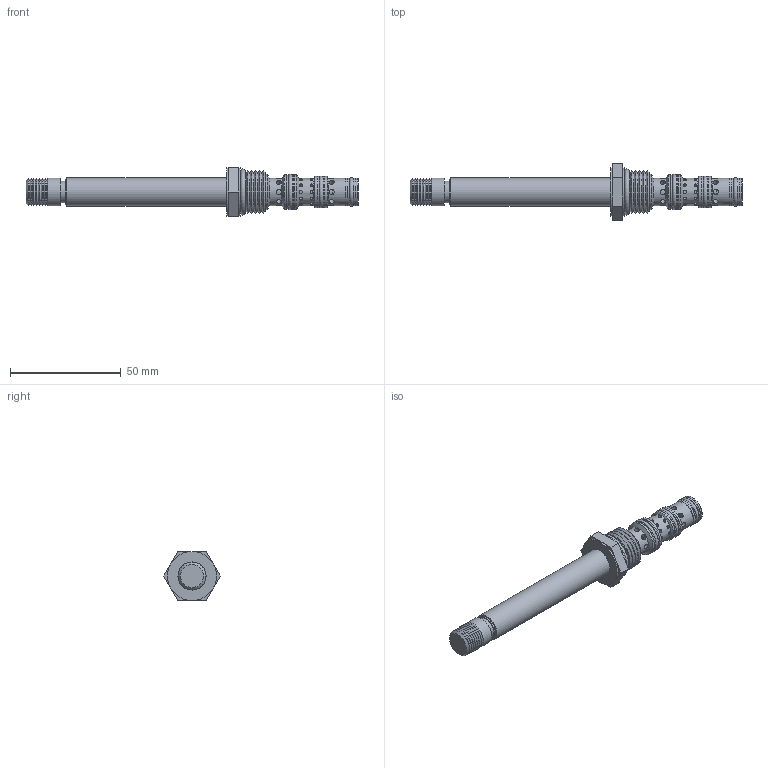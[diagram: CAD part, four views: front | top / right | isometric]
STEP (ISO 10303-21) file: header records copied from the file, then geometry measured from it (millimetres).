
FILE_DESCRIPTION(/* description */ (''),/* implementation_level */ '2;1');
FILE_NAME(/* name */ 'R:\Solids\Valve Solids exterior\Solids (.STEP)\VQS4M00-3D Full.stp',/* time_stamp */ '2016-06-23T09:42:47-05:00',/* author */ ('paul'),/* organization */ (''),/* preprocessor_version */ 'ST-DEVELOPER v15.6',/* originating_system */ 'Autodesk Inventor 2015',/* authorisation */ '');
FILE_SCHEMA (('AUTOMOTIVE_DESIGN { 1 0 10303 214 3 1 1 }'));
Length unit declared in the file: inch
Products named in the file (9): Part4; 60108012; 60108013; 60108014; 60420012; 60420013; 60420014; 60188908; Assembly3
Assembly tree (11 placements, depth 2):
  Assembly3
    Part4
    60108012
    60108013
    60108014
    60420012  x2
    60420013  x2
    60420014  x2
    60188908
Bounding box: 149.86 x 25.52 x 22.1 mm (x, y, z)
Volume: 21999.6 mm3; surface area: 10911.6 mm2
Topology: 11 solids, 11 shells, 199 faces, 379 edges, 228 vertices
Faces by surface type: cylinder 114, plane 46, cone 32, torus 7
Full cylindrical faces by diameter (mm): 1.321 x24, 2.337 x16, 6.35 x1, 7.948 x1, 9.779 x1, 9.842 x2, 9.881 x1, 10.987 x1, 11.455 x3, 12.256 x3, 12.535 x2, 12.548 x1, 12.624 x2, 12.675 x1, 13.056 x3, 14.148 x2, 14.199 x2, 15.753 x2, 15.799 x3, 16.751 x1, 22.098 x2
Entity records: 6838 total; most frequent: CARTESIAN_POINT 3345, DIRECTION 680, ORIENTED_EDGE 488, EDGE_LOOP 350, AXIS2_PLACEMENT_3D 325, EDGE_CURVE 244, VERTEX_POINT 206, FACE_OUTER_BOUND 187
